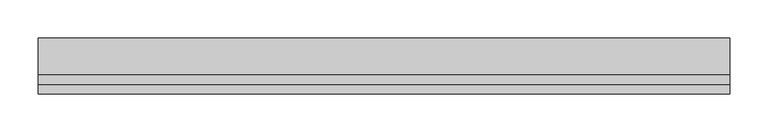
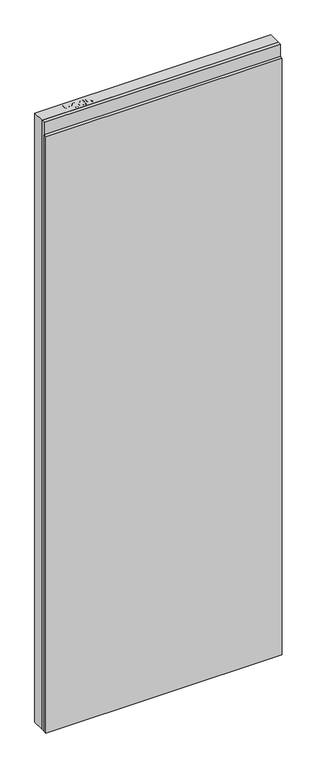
"""IFC4 building model written with IfcOpenShell, lengths in millimetres: proxy geometry, ParedeGeral_Blufab : Parede Geral - Largura 90 cm."""

from ifc_helpers import new_model, si_unit, origin, origin_with_axes, place, context, project, spatial, polyline, outline, extrude, source, transform, mapped, element, save


def generic_models_aefc3c11(model_context):
    return source(origin(), model_context, "Body", "SweptSolid", [
        extrude(outline(polyline([(900.0, 12.5), (900.0, 0.0), (0.0, 0.0), (0.0, 12.5), (900.0, 12.5)])), origin_with_axes(), (0.0, 0.0, 1.0), 2400.0),
        extrude(outline(polyline([(900.0, 25.0126803), (900.0, 12.5126803), (0.0, 12.5126803), (0.0, 25.0126803), (900.0, 25.0126803)])), origin_with_axes(), (0.0, 0.0, 1.0), 2450.0),
        extrude(outline(polyline([(900.0, 73.0), (900.0, 25.0126803), (0.0, 25.0126803), (0.0, 73.0), (900.0, 73.0)])), origin_with_axes(), (0.0, 0.0, 1.0), 2450.0),
        extrude(outline(polyline([(100.0857709, 32.9961157), (100.0857709, 63.1330087), (111.2546683, 63.1330087), (115.7575439, 62.8460608), (119.4179697, 61.4370727), (121.7908086, 58.5234473), (122.6884407, 54.4142055), (120.2640983, 47.9026941), (111.5121857, 45.2392285), (103.8528825, 45.2392285), (103.8528825, 32.9961157), (100.0857709, 32.9961157)]), holes=[polyline([(103.8528825, 49.0063401), (111.7329149, 49.0063401), (117.2805753, 50.3895764), (118.921329, 54.2817679), (117.9537994, 57.4014073), (115.4117348, 59.1083797), (111.6446232, 59.3658971), (103.8528825, 59.3658971), (103.8528825, 49.0063401)])]), origin_with_axes(), (0.0, 0.0, 1.0), 2450.0),
        extrude(outline(polyline([(141.9948878, 44.7683395), (141.9948878, 48.5354512), (154.2380006, 48.5354512), (154.2380006, 37.2709045), (148.1936994, 33.7171644), (141.8035891, 32.5252267), (133.7580099, 34.419819), (128.2986411, 39.9049396), (126.4555523, 47.9174094), (128.2912835, 56.1101415), (133.5703901, 61.7571301), (141.5019259, 63.6038977), (147.3953955, 62.5333611), (151.5267103, 59.5535169), (153.8038998, 54.5687159), (150.3310938, 53.5901498), (148.6130849, 57.0739923), (145.6773866, 59.082628), (141.4430648, 59.8367861), (136.6201318, 59.0237669), (133.3386244, 56.8900513), (131.3998863, 53.9874623), (130.2226639, 48.0719199), (131.6390096, 41.5052262), (135.759288, 37.5762465), (141.5019259, 36.2923384), (146.6559527, 37.259868), (150.470889, 39.323686), (150.470889, 44.7683395), (141.9948878, 44.7683395)])), origin_with_axes(), (0.0, 0.0, 1.0), 2450.0),
        extrude(outline(polyline([(159.4177791, 40.530339), (163.1848907, 41.0012279), (164.8771479, 37.4070208), (168.0850789, 36.2923384), (171.1348206, 37.0097083), (173.2023174, 38.9263735), (174.4347221, 42.2005232), (174.9791875, 46.5709613), (171.944161, 44.451961), (167.8128462, 43.3556727), (161.5183853, 46.0338536), (158.9468901, 53.0898303), (161.6434651, 60.3738938), (168.4014574, 63.1330087), (173.7688557, 61.5584738), (177.4623909, 57.0703135), (178.7242262, 48.6384581), (177.4660698, 39.4892329), (173.7247099, 34.3057756), (167.9084955, 32.5252267), (162.1180329, 34.6258329), (159.4177791, 40.530339)]), holes=[polyline([(174.9571146, 53.178122), (173.3310761, 57.6957129), (169.0121415, 59.3658971), (164.4798353, 57.5669542), (162.7140018, 52.9058893), (164.384186, 48.7304286), (168.9091346, 47.1227843), (173.2538209, 48.7304286), (174.9571146, 53.178122)])]), origin_with_axes(), (0.0, 0.0, 1.0), 2450.0),
        extrude(outline(polyline([(182.0204489, 47.8217601), (183.1277737, 56.4927387), (186.4166387, 61.492255), (191.9091169, 63.1330087), (196.3089856, 62.1618003), (199.3476908, 59.3622183), (201.1135244, 54.9034885), (201.7977849, 47.8217601), (200.7014966, 39.1875697), (197.423668, 34.1770169), (191.9091169, 32.5252267), (185.0223659, 35.3947063), (182.0204489, 47.8217601)]), holes=[polyline([(185.7875605, 47.8291177), (187.5533941, 38.4738786), (191.9091169, 36.2923384), (196.2648397, 38.4812362), (198.0306733, 47.8291177), (196.3237008, 57.0776711), (191.8649711, 59.3658971), (187.6122552, 57.3499038), (185.7875605, 47.8291177)])]), origin_with_axes(), (0.0, 0.0, 1.0), 2450.0),
    ])


if __name__ == "__main__":
    model = new_model("IFC4")
    model_context = context("Model", 3, world=origin())
    ifc_project = project(units=[si_unit("LENGTHUNIT", "METRE", prefix="MILLI")], contexts=[model_context])
    site = spatial("IfcSite", under=ifc_project)
    building = spatial("IfcBuilding", under=site)
    placement = place(None, origin())
    generic_models_shape = generic_models_aefc3c11(model_context)
    element("IfcBuildingElementProxy", 1, Name="ParedeGeral_Blufab : Parede Geral - Largura 90 cm", ObjectType="ParedeGeral_Blufab : Parede Geral - Largura 90 cm", at=placement, inside=building, context=model_context, shape_type="MappedRepresentation", body=[
        mapped(generic_models_shape, transform((0.0, 0.0, 0.0), x_axis=(1.0, 0.0, 0.0), y_axis=(0.0, 1.0, 0.0), z_axis=(0.0, 0.0, 1.0))),
    ])
    save(model, "model.ifc")
